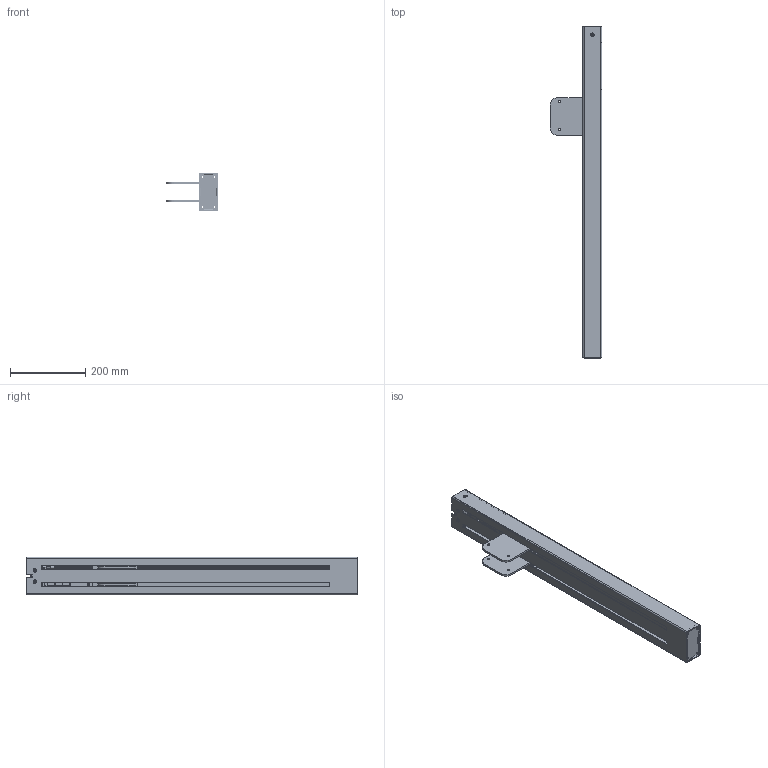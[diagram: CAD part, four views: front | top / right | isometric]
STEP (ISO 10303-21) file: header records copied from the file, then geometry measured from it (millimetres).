
FILE_DESCRIPTION (( 'STEP AP203' ), '1' );
FILE_NAME ('3D_TL25B.STEP', '2025-02-24T09:14:31', ( '' ), ( '' ), 'SwSTEP 2.0', 'SolidWorks 2015', '' );
FILE_SCHEMA (( 'CONFIG_CONTROL_DESIGN' ));
Products named in the file (1): 3D_TL25B
Bounding box: 137 x 880 x 100 mm (x, y, z)
Volume: 756723.7 mm3; surface area: 674474.9 mm2
Topology: 23 solids, 23 shells, 1563 faces, 4297 edges, 2794 vertices
Faces by surface type: cylinder 934, plane 503, cone 67, torus 29, bspline 26, sphere 4
Entity records: 133329 total; most frequent: CARTESIAN_POINT 96343, ORIENTED_EDGE 8586, DIRECTION 6905, EDGE_CURVE 4293, VERTEX_POINT 2794, AXIS2_PLACEMENT_3D 2349, LINE 2207, VECTOR 2207
